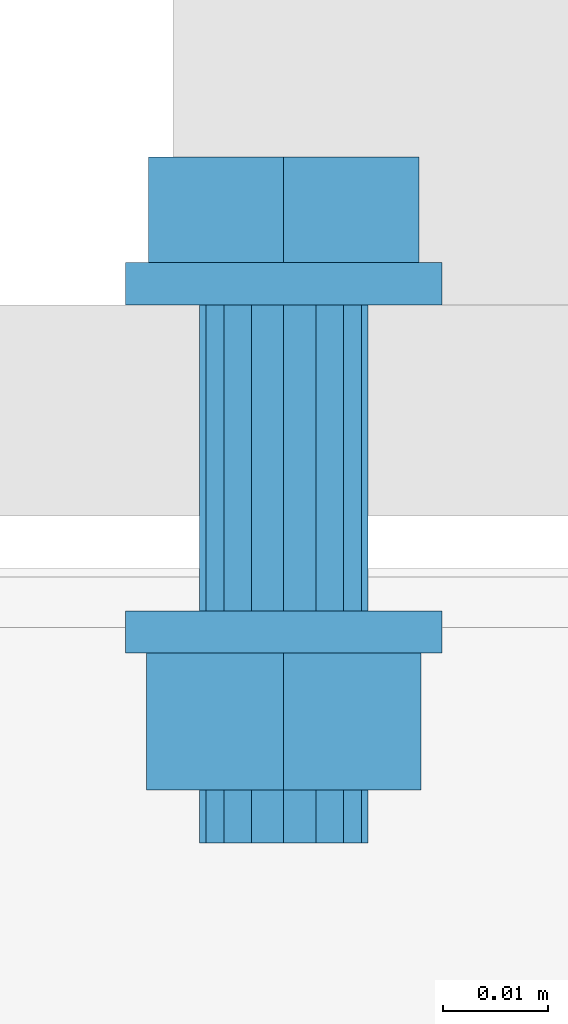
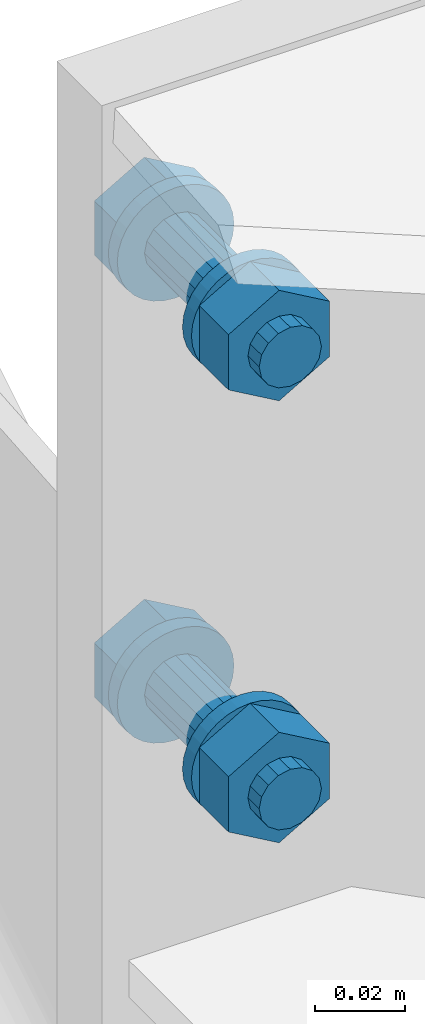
# One storey, part 6 of 21: 2 mechanical fasteners.
"""IFC4X3_ADD2 building model written with IfcOpenShell, lengths in millimetres."""

from ifc_helpers import new_model, entity, si_unit, converted_unit, derived_unit, direction, frame, origin, place, context, project, spatial, faceted_brep, element, save


model = new_model("IFC4X3_ADD2")

# Units and contexts
model_context = context("Model", 3, precision=0.01, world=origin(), true_north=direction((6.123233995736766e-17, 1.0)))
plan_context = context("Plan", 3, precision=0.01, world=origin(), true_north=direction((6.123233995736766e-17, 1.0)))
ifc_project = project(units=[si_unit("LENGTHUNIT", "METRE", prefix="MILLI"), converted_unit("PLANEANGLEUNIT", "DEGREE", entity("IfcPlaneAngleMeasure", 0.017453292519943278), si_unit("PLANEANGLEUNIT", "RADIAN"), dimensions=[0, 0, 0, 0, 0, 0, 0]), si_unit("AREAUNIT", "SQUARE_METRE"), si_unit("VOLUMEUNIT", "CUBIC_METRE"), derived_unit("THERMALTRANSMITTANCEUNIT", [(si_unit("MASSUNIT", "GRAM", prefix="KILO"), 1), (si_unit("THERMODYNAMICTEMPERATUREUNIT", "KELVIN"), -1), (si_unit("TIMEUNIT", "SECOND"), -3)]), derived_unit("USERDEFINED", [(si_unit("MASSUNIT", "GRAM", prefix="KILO"), 1), (si_unit("THERMODYNAMICTEMPERATUREUNIT", "KELVIN"), -1), (si_unit("TIMEUNIT", "SECOND"), -2)]), derived_unit("THERMALRESISTANCEUNIT", [(si_unit("MASSUNIT", "GRAM", prefix="KILO"), -1), (si_unit("TIMEUNIT", "SECOND"), 3), (si_unit("THERMODYNAMICTEMPERATUREUNIT", "KELVIN"), 1)]), si_unit("MASSUNIT", "GRAM", prefix="KILO"), derived_unit("MOMENTOFINERTIAUNIT", [(si_unit("LENGTHUNIT", "METRE"), 4)]), derived_unit("LINEARFORCEUNIT", [(si_unit("MASSUNIT", "GRAM", prefix="KILO"), 1), (si_unit("TIMEUNIT", "SECOND"), -2)]), derived_unit("WARPINGCONSTANTUNIT", [(si_unit("LENGTHUNIT", "METRE"), 6)]), si_unit("PRESSUREUNIT", "PASCAL"), derived_unit("MASSDENSITYUNIT", [(si_unit("MASSUNIT", "GRAM", prefix="KILO"), 1), (si_unit("LENGTHUNIT", "METRE"), -3)]), derived_unit("MODULUSOFELASTICITYUNIT", [(si_unit("MASSUNIT", "GRAM", prefix="KILO"), 1), (si_unit("TIMEUNIT", "SECOND"), -2), (si_unit("LENGTHUNIT", "METRE"), -1)]), derived_unit("THERMALEXPANSIONCOEFFICIENTUNIT", [(si_unit("THERMODYNAMICTEMPERATUREUNIT", "KELVIN"), -1)]), derived_unit("VAPORPERMEABILITYUNIT", [(si_unit("LENGTHUNIT", "METRE"), -1), (si_unit("TIMEUNIT", "SECOND"), 1)]), derived_unit("USERDEFINED", [(si_unit("MASSUNIT", "GRAM", prefix="KILO"), 1), (si_unit("TIMEUNIT", "SECOND"), -3), (si_unit("LENGTHUNIT", "METRE"), 3), (si_unit("ELECTRICCURRENTUNIT", "AMPERE"), -2)]), derived_unit("SPECIFICHEATCAPACITYUNIT", [(si_unit("THERMODYNAMICTEMPERATUREUNIT", "KELVIN"), -1), (si_unit("TIMEUNIT", "SECOND"), -2), (si_unit("LENGTHUNIT", "METRE"), 2)]), derived_unit("THERMALCONDUCTANCEUNIT", [(si_unit("MASSUNIT", "GRAM", prefix="KILO"), 1), (si_unit("THERMODYNAMICTEMPERATUREUNIT", "KELVIN"), -1), (si_unit("TIMEUNIT", "SECOND"), -3), (si_unit("LENGTHUNIT", "METRE"), 1)])], contexts=[model_context, plan_context])

# Site, building, storey
site_placement = place(None, origin())
site = spatial("IfcSite", under=ifc_project, at=site_placement, Name="Default", CompositionType="ELEMENT")
building_placement = place(site_placement, origin())
building = spatial("IfcBuilding", under=site, at=building_placement, Name="Complex structure", CompositionType="ELEMENT")
storey_placement = place(building_placement, frame((0.0, 0.0, 3000.0)))
storey = spatial("IfcBuildingStorey", under=building, at=storey_placement, Name="Level 01", CompositionType="ELEMENT", Elevation=3000.0)

# Mechanical fasteners
mechanical_fastener_1_placement = place(storey_placement, frame((0.0, 0.0, -3000.0)))
element("IfcMechanicalFastener", 1, at=mechanical_fastener_1_placement, inside=storey, ObjectType="Bolt#1", NominalDiameter=16.0, NominalLength=55.0, context=model_context, shape_type="Brep", body=[
    faceted_brep([(-13179.721550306, -1182.866703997, 3943.0), (-13179.721550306, -1186.866703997, 3943.0), (-13180.0097711, -1186.866703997, 3940.07364517), (-13180.0097711, -1182.866703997, 3940.07364517), (-13180.863357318, -1186.866703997, 3937.259748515), (-13180.863357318, -1182.866703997, 3937.259748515), (-13182.249506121, -1186.866703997, 3934.666446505), (-13182.249506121, -1182.866703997, 3934.666446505), (-13184.114948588, -1186.866703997, 3932.393398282), (-13184.114948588, -1182.866703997, 3932.393398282), (-13186.387996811, -1186.866703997, 3930.527955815), (-13186.387996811, -1182.866703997, 3930.527955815), (-13188.98129882, -1186.866703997, 3929.141807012), (-13188.98129882, -1182.866703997, 3929.141807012), (-13191.795195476, -1186.866703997, 3928.288220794), (-13191.795195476, -1182.866703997, 3928.288220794), (-13194.721550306, -1186.866703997, 3928.0), (-13194.721550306, -1182.866703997, 3928.0), (-13197.647905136, -1186.866703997, 3928.288220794), (-13197.647905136, -1182.866703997, 3928.288220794), (-13200.461801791, -1186.866703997, 3929.141807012), (-13200.461801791, -1182.866703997, 3929.141807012), (-13203.055103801, -1186.866703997, 3930.527955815), (-13203.055103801, -1182.866703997, 3930.527955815), (-13205.328152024, -1186.866703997, 3932.393398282), (-13205.328152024, -1182.866703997, 3932.393398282), (-13207.19359449, -1186.866703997, 3934.666446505), (-13207.19359449, -1182.866703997, 3934.666446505), (-13208.579743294, -1186.866703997, 3937.259748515), (-13208.579743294, -1182.866703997, 3937.259748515), (-13209.433329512, -1186.866703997, 3940.07364517), (-13209.433329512, -1182.866703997, 3940.07364517), (-13209.721550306, -1186.866703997, 3943.0), (-13209.721550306, -1182.866703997, 3943.0), (-13209.433329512, -1186.866703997, 3945.92635483), (-13209.433329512, -1182.866703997, 3945.92635483), (-13208.579743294, -1186.866703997, 3948.740251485), (-13208.579743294, -1182.866703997, 3948.740251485), (-13207.19359449, -1186.866703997, 3951.333553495), (-13207.19359449, -1182.866703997, 3951.333553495), (-13205.328152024, -1186.866703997, 3953.606601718), (-13205.328152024, -1182.866703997, 3953.606601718), (-13203.055103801, -1186.866703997, 3955.472044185), (-13203.055103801, -1182.866703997, 3955.472044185), (-13200.461801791, -1186.866703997, 3956.858192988), (-13200.461801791, -1182.866703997, 3956.858192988), (-13197.647905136, -1186.866703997, 3957.711779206), (-13197.647905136, -1182.866703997, 3957.711779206), (-13194.721550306, -1186.866703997, 3958.0), (-13194.721550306, -1182.866703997, 3958.0), (-13191.795195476, -1186.866703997, 3957.711779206), (-13191.795195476, -1182.866703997, 3957.711779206), (-13188.98129882, -1186.866703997, 3956.858192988), (-13188.98129882, -1182.866703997, 3956.858192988), (-13186.387996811, -1186.866703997, 3955.472044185), (-13186.387996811, -1182.866703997, 3955.472044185), (-13184.114948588, -1186.866703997, 3953.606601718), (-13184.114948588, -1182.866703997, 3953.606601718), (-13182.249506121, -1186.866703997, 3951.333553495), (-13182.249506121, -1182.866703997, 3951.333553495), (-13180.863357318, -1186.866703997, 3948.740251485), (-13180.863357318, -1182.866703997, 3948.740251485), (-13180.0097711, -1186.866703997, 3945.92635483), (-13180.0097711, -1182.866703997, 3945.92635483)], [[[0, 1, 2, 3]], [[3, 2, 4, 5]], [[5, 4, 6, 7]], [[7, 6, 8, 9]], [[9, 8, 10, 11]], [[11, 10, 12, 13]], [[13, 12, 14, 15]], [[15, 14, 16, 17]], [[17, 16, 18, 19]], [[19, 18, 20, 21]], [[21, 20, 22, 23]], [[23, 22, 24, 25]], [[25, 24, 26, 27]], [[27, 26, 28, 29]], [[29, 28, 30, 31]], [[31, 30, 32, 33]], [[33, 32, 34, 35]], [[35, 34, 36, 37]], [[37, 36, 38, 39]], [[39, 38, 40, 41]], [[41, 40, 42, 43]], [[43, 42, 44, 45]], [[45, 44, 46, 47]], [[47, 46, 48, 49]], [[49, 48, 50, 51]], [[51, 50, 52, 53]], [[53, 52, 54, 55]], [[55, 54, 56, 57]], [[57, 56, 58, 59]], [[59, 58, 60, 61]], [[61, 60, 62, 63]], [[63, 62, 1, 0]], [[0, 3, 5, 7, 9, 11, 13, 15, 17, 19, 21, 23, 25, 27, 29, 31, 33, 35, 37, 39, 41, 43, 45, 47, 49, 51, 53, 55, 57, 59, 61, 63]], [[1, 62, 60, 58, 56, 54, 52, 50, 48, 46, 44, 42, 40, 38, 36, 34, 32, 30, 28, 26, 24, 22, 20, 18, 16, 14, 12, 10, 8, 6, 4, 2]]]),
    faceted_brep([(-13207.521405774, -1182.866703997, 3935.61), (-13207.521405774, -1172.866703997, 3935.61), (-13194.721550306, -1172.866703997, 3928.22), (-13194.721550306, -1182.866703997, 3928.22), (-13181.921694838, -1172.866703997, 3935.61), (-13181.921694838, -1182.866703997, 3935.61), (-13181.921694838, -1172.866703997, 3950.39), (-13181.921694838, -1182.866703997, 3950.39), (-13194.721550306, -1172.866703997, 3957.78), (-13194.721550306, -1182.866703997, 3957.78), (-13207.521405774, -1172.866703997, 3950.39), (-13207.521405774, -1182.866703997, 3950.39)], [[[0, 1, 2, 3]], [[3, 2, 4, 5]], [[5, 4, 6, 7]], [[7, 6, 8, 9]], [[9, 8, 10, 11]], [[11, 10, 1, 0]], [[4, 2, 1, 10, 8, 6]], [[0, 3, 5, 7, 9, 11]]]),
    faceted_brep([(-13186.721550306, -1186.866703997, 3943.0), (-13186.721550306, -1215.866703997, 3943.0), (-13187.330514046, -1215.866703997, 3939.938532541), (-13187.330514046, -1186.866703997, 3939.938532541), (-13189.064696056, -1215.866703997, 3937.343145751), (-13189.064696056, -1186.866703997, 3937.343145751), (-13191.660082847, -1215.866703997, 3935.60896374), (-13191.660082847, -1186.866703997, 3935.60896374), (-13194.721550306, -1215.866703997, 3935.0), (-13194.721550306, -1186.866703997, 3935.0), (-13197.783017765, -1215.866703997, 3935.60896374), (-13197.783017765, -1186.866703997, 3935.60896374), (-13200.378404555, -1215.866703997, 3937.343145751), (-13200.378404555, -1186.866703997, 3937.343145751), (-13202.112586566, -1215.866703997, 3939.938532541), (-13202.112586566, -1186.866703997, 3939.938532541), (-13202.721550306, -1215.866703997, 3943.0), (-13202.721550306, -1186.866703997, 3943.0), (-13202.112586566, -1215.866703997, 3946.061467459), (-13202.112586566, -1186.866703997, 3946.061467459), (-13200.378404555, -1215.866703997, 3948.656854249), (-13200.378404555, -1186.866703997, 3948.656854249), (-13197.783017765, -1215.866703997, 3950.39103626), (-13197.783017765, -1186.866703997, 3950.39103626), (-13194.721550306, -1215.866703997, 3951.0), (-13194.721550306, -1186.866703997, 3951.0), (-13191.660082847, -1215.866703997, 3950.39103626), (-13191.660082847, -1186.866703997, 3950.39103626), (-13189.064696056, -1215.866703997, 3948.656854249), (-13189.064696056, -1186.866703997, 3948.656854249), (-13187.330514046, -1215.866703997, 3946.061467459), (-13187.330514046, -1186.866703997, 3946.061467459)], [[[0, 1, 2, 3]], [[3, 2, 4, 5]], [[5, 4, 6, 7]], [[7, 6, 8, 9]], [[9, 8, 10, 11]], [[11, 10, 12, 13]], [[13, 12, 14, 15]], [[15, 14, 16, 17]], [[17, 16, 18, 19]], [[19, 18, 20, 21]], [[21, 20, 22, 23]], [[23, 22, 24, 25]], [[25, 24, 26, 27]], [[27, 26, 28, 29]], [[29, 28, 30, 31]], [[31, 30, 1, 0]], [[0, 3, 5, 7, 9, 11, 13, 15, 17, 19, 21, 23, 25, 27, 29, 31]], [[1, 30, 28, 26, 24, 22, 20, 18, 16, 14, 12, 10, 8, 6, 4, 2]]]),
    faceted_brep([(-13179.721550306, -1215.866703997, 3943.0), (-13179.721550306, -1219.866703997, 3943.0), (-13180.0097711, -1219.866703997, 3940.07364517), (-13180.0097711, -1215.866703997, 3940.07364517), (-13180.863357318, -1219.866703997, 3937.259748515), (-13180.863357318, -1215.866703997, 3937.259748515), (-13182.249506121, -1219.866703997, 3934.666446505), (-13182.249506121, -1215.866703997, 3934.666446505), (-13184.114948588, -1219.866703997, 3932.393398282), (-13184.114948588, -1215.866703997, 3932.393398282), (-13186.387996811, -1219.866703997, 3930.527955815), (-13186.387996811, -1215.866703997, 3930.527955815), (-13188.98129882, -1219.866703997, 3929.141807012), (-13188.98129882, -1215.866703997, 3929.141807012), (-13191.795195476, -1219.866703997, 3928.288220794), (-13191.795195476, -1215.866703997, 3928.288220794), (-13194.721550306, -1219.866703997, 3928.0), (-13194.721550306, -1215.866703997, 3928.0), (-13197.647905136, -1219.866703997, 3928.288220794), (-13197.647905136, -1215.866703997, 3928.288220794), (-13200.461801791, -1219.866703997, 3929.141807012), (-13200.461801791, -1215.866703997, 3929.141807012), (-13203.055103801, -1219.866703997, 3930.527955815), (-13203.055103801, -1215.866703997, 3930.527955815), (-13205.328152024, -1219.866703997, 3932.393398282), (-13205.328152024, -1215.866703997, 3932.393398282), (-13207.19359449, -1219.866703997, 3934.666446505), (-13207.19359449, -1215.866703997, 3934.666446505), (-13208.579743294, -1219.866703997, 3937.259748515), (-13208.579743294, -1215.866703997, 3937.259748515), (-13209.433329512, -1219.866703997, 3940.07364517), (-13209.433329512, -1215.866703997, 3940.07364517), (-13209.721550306, -1219.866703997, 3943.0), (-13209.721550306, -1215.866703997, 3943.0), (-13209.433329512, -1219.866703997, 3945.92635483), (-13209.433329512, -1215.866703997, 3945.92635483), (-13208.579743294, -1219.866703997, 3948.740251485), (-13208.579743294, -1215.866703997, 3948.740251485), (-13207.19359449, -1219.866703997, 3951.333553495), (-13207.19359449, -1215.866703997, 3951.333553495), (-13205.328152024, -1219.866703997, 3953.606601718), (-13205.328152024, -1215.866703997, 3953.606601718), (-13203.055103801, -1219.866703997, 3955.472044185), (-13203.055103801, -1215.866703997, 3955.472044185), (-13200.461801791, -1219.866703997, 3956.858192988), (-13200.461801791, -1215.866703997, 3956.858192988), (-13197.647905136, -1219.866703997, 3957.711779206), (-13197.647905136, -1215.866703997, 3957.711779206), (-13194.721550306, -1219.866703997, 3958.0), (-13194.721550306, -1215.866703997, 3958.0), (-13191.795195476, -1219.866703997, 3957.711779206), (-13191.795195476, -1215.866703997, 3957.711779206), (-13188.98129882, -1219.866703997, 3956.858192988), (-13188.98129882, -1215.866703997, 3956.858192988), (-13186.387996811, -1219.866703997, 3955.472044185), (-13186.387996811, -1215.866703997, 3955.472044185), (-13184.114948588, -1219.866703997, 3953.606601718), (-13184.114948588, -1215.866703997, 3953.606601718), (-13182.249506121, -1219.866703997, 3951.333553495), (-13182.249506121, -1215.866703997, 3951.333553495), (-13180.863357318, -1219.866703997, 3948.740251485), (-13180.863357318, -1215.866703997, 3948.740251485), (-13180.0097711, -1219.866703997, 3945.92635483), (-13180.0097711, -1215.866703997, 3945.92635483)], [[[0, 1, 2, 3]], [[3, 2, 4, 5]], [[5, 4, 6, 7]], [[7, 6, 8, 9]], [[9, 8, 10, 11]], [[11, 10, 12, 13]], [[13, 12, 14, 15]], [[15, 14, 16, 17]], [[17, 16, 18, 19]], [[19, 18, 20, 21]], [[21, 20, 22, 23]], [[23, 22, 24, 25]], [[25, 24, 26, 27]], [[27, 26, 28, 29]], [[29, 28, 30, 31]], [[31, 30, 32, 33]], [[33, 32, 34, 35]], [[35, 34, 36, 37]], [[37, 36, 38, 39]], [[39, 38, 40, 41]], [[41, 40, 42, 43]], [[43, 42, 44, 45]], [[45, 44, 46, 47]], [[47, 46, 48, 49]], [[49, 48, 50, 51]], [[51, 50, 52, 53]], [[53, 52, 54, 55]], [[55, 54, 56, 57]], [[57, 56, 58, 59]], [[59, 58, 60, 61]], [[61, 60, 62, 63]], [[63, 62, 1, 0]], [[0, 3, 5, 7, 9, 11, 13, 15, 17, 19, 21, 23, 25, 27, 29, 31, 33, 35, 37, 39, 41, 43, 45, 47, 49, 51, 53, 55, 57, 59, 61, 63]], [[1, 62, 60, 58, 56, 54, 52, 50, 48, 46, 44, 42, 40, 38, 36, 34, 32, 30, 28, 26, 24, 22, 20, 18, 16, 14, 12, 10, 8, 6, 4, 2]]]),
    faceted_brep([(-13207.711931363, -1232.866703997, 3935.5), (-13207.711931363, -1219.866703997, 3935.5), (-13194.721550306, -1219.866703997, 3928.0), (-13194.721550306, -1232.866703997, 3928.0), (-13181.731169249, -1219.866703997, 3935.5), (-13181.731169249, -1232.866703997, 3935.5), (-13181.731169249, -1219.866703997, 3950.5), (-13181.731169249, -1232.866703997, 3950.5), (-13194.721550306, -1219.866703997, 3958.0), (-13194.721550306, -1232.866703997, 3958.0), (-13207.711931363, -1219.866703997, 3950.5), (-13207.711931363, -1232.866703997, 3950.5)], [[[0, 1, 2, 3]], [[3, 2, 4, 5]], [[5, 4, 6, 7]], [[7, 6, 8, 9]], [[9, 8, 10, 11]], [[11, 10, 1, 0]], [[4, 2, 1, 10, 8, 6]], [[0, 3, 5, 7, 9, 11]]]),
    faceted_brep([(-13186.721550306, -1232.866703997, 3943.0), (-13186.721550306, -1237.866703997, 3943.0), (-13187.330514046, -1237.866703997, 3939.938532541), (-13187.330514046, -1232.866703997, 3939.938532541), (-13189.064696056, -1237.866703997, 3937.343145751), (-13189.064696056, -1232.866703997, 3937.343145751), (-13191.660082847, -1237.866703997, 3935.60896374), (-13191.660082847, -1232.866703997, 3935.60896374), (-13194.721550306, -1237.866703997, 3935.0), (-13194.721550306, -1232.866703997, 3935.0), (-13197.783017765, -1237.866703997, 3935.60896374), (-13197.783017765, -1232.866703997, 3935.60896374), (-13200.378404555, -1237.866703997, 3937.343145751), (-13200.378404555, -1232.866703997, 3937.343145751), (-13202.112586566, -1237.866703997, 3939.938532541), (-13202.112586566, -1232.866703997, 3939.938532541), (-13202.721550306, -1237.866703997, 3943.0), (-13202.721550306, -1232.866703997, 3943.0), (-13202.112586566, -1237.866703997, 3946.061467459), (-13202.112586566, -1232.866703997, 3946.061467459), (-13200.378404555, -1237.866703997, 3948.656854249), (-13200.378404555, -1232.866703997, 3948.656854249), (-13197.783017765, -1237.866703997, 3950.39103626), (-13197.783017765, -1232.866703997, 3950.39103626), (-13194.721550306, -1237.866703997, 3951.0), (-13194.721550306, -1232.866703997, 3951.0), (-13191.660082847, -1237.866703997, 3950.39103626), (-13191.660082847, -1232.866703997, 3950.39103626), (-13189.064696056, -1237.866703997, 3948.656854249), (-13189.064696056, -1232.866703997, 3948.656854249), (-13187.330514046, -1237.866703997, 3946.061467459), (-13187.330514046, -1232.866703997, 3946.061467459)], [[[0, 1, 2, 3]], [[3, 2, 4, 5]], [[5, 4, 6, 7]], [[7, 6, 8, 9]], [[9, 8, 10, 11]], [[11, 10, 12, 13]], [[13, 12, 14, 15]], [[15, 14, 16, 17]], [[17, 16, 18, 19]], [[19, 18, 20, 21]], [[21, 20, 22, 23]], [[23, 22, 24, 25]], [[25, 24, 26, 27]], [[27, 26, 28, 29]], [[29, 28, 30, 31]], [[31, 30, 1, 0]], [[0, 3, 5, 7, 9, 11, 13, 15, 17, 19, 21, 23, 25, 27, 29, 31]], [[1, 30, 28, 26, 24, 22, 20, 18, 16, 14, 12, 10, 8, 6, 4, 2]]]),
])
mechanical_fastener_2_placement = place(storey_placement, frame((0.0, 0.0, -3000.0)))
element("IfcMechanicalFastener", 2, at=mechanical_fastener_2_placement, inside=storey, ObjectType="Bolt#2", NominalDiameter=16.0, NominalLength=55.0, context=model_context, shape_type="Brep", body=[
    faceted_brep([(-13179.721550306, -1182.866703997, 3823.0), (-13179.721550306, -1186.866703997, 3823.0), (-13180.0097711, -1186.866703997, 3820.07364517), (-13180.0097711, -1182.866703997, 3820.07364517), (-13180.863357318, -1186.866703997, 3817.259748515), (-13180.863357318, -1182.866703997, 3817.259748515), (-13182.249506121, -1186.866703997, 3814.666446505), (-13182.249506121, -1182.866703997, 3814.666446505), (-13184.114948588, -1186.866703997, 3812.393398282), (-13184.114948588, -1182.866703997, 3812.393398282), (-13186.387996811, -1186.866703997, 3810.527955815), (-13186.387996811, -1182.866703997, 3810.527955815), (-13188.98129882, -1186.866703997, 3809.141807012), (-13188.98129882, -1182.866703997, 3809.141807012), (-13191.795195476, -1186.866703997, 3808.288220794), (-13191.795195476, -1182.866703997, 3808.288220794), (-13194.721550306, -1186.866703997, 3808.0), (-13194.721550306, -1182.866703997, 3808.0), (-13197.647905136, -1186.866703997, 3808.288220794), (-13197.647905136, -1182.866703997, 3808.288220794), (-13200.461801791, -1186.866703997, 3809.141807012), (-13200.461801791, -1182.866703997, 3809.141807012), (-13203.055103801, -1186.866703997, 3810.527955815), (-13203.055103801, -1182.866703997, 3810.527955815), (-13205.328152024, -1186.866703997, 3812.393398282), (-13205.328152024, -1182.866703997, 3812.393398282), (-13207.19359449, -1186.866703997, 3814.666446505), (-13207.19359449, -1182.866703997, 3814.666446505), (-13208.579743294, -1186.866703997, 3817.259748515), (-13208.579743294, -1182.866703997, 3817.259748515), (-13209.433329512, -1186.866703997, 3820.07364517), (-13209.433329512, -1182.866703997, 3820.07364517), (-13209.721550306, -1186.866703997, 3823.0), (-13209.721550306, -1182.866703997, 3823.0), (-13209.433329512, -1186.866703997, 3825.92635483), (-13209.433329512, -1182.866703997, 3825.92635483), (-13208.579743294, -1186.866703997, 3828.740251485), (-13208.579743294, -1182.866703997, 3828.740251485), (-13207.19359449, -1186.866703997, 3831.333553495), (-13207.19359449, -1182.866703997, 3831.333553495), (-13205.328152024, -1186.866703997, 3833.606601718), (-13205.328152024, -1182.866703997, 3833.606601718), (-13203.055103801, -1186.866703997, 3835.472044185), (-13203.055103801, -1182.866703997, 3835.472044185), (-13200.461801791, -1186.866703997, 3836.858192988), (-13200.461801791, -1182.866703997, 3836.858192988), (-13197.647905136, -1186.866703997, 3837.711779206), (-13197.647905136, -1182.866703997, 3837.711779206), (-13194.721550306, -1186.866703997, 3838.0), (-13194.721550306, -1182.866703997, 3838.0), (-13191.795195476, -1186.866703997, 3837.711779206), (-13191.795195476, -1182.866703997, 3837.711779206), (-13188.98129882, -1186.866703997, 3836.858192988), (-13188.98129882, -1182.866703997, 3836.858192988), (-13186.387996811, -1186.866703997, 3835.472044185), (-13186.387996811, -1182.866703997, 3835.472044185), (-13184.114948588, -1186.866703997, 3833.606601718), (-13184.114948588, -1182.866703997, 3833.606601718), (-13182.249506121, -1186.866703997, 3831.333553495), (-13182.249506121, -1182.866703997, 3831.333553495), (-13180.863357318, -1186.866703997, 3828.740251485), (-13180.863357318, -1182.866703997, 3828.740251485), (-13180.0097711, -1186.866703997, 3825.92635483), (-13180.0097711, -1182.866703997, 3825.92635483)], [[[0, 1, 2, 3]], [[3, 2, 4, 5]], [[5, 4, 6, 7]], [[7, 6, 8, 9]], [[9, 8, 10, 11]], [[11, 10, 12, 13]], [[13, 12, 14, 15]], [[15, 14, 16, 17]], [[17, 16, 18, 19]], [[19, 18, 20, 21]], [[21, 20, 22, 23]], [[23, 22, 24, 25]], [[25, 24, 26, 27]], [[27, 26, 28, 29]], [[29, 28, 30, 31]], [[31, 30, 32, 33]], [[33, 32, 34, 35]], [[35, 34, 36, 37]], [[37, 36, 38, 39]], [[39, 38, 40, 41]], [[41, 40, 42, 43]], [[43, 42, 44, 45]], [[45, 44, 46, 47]], [[47, 46, 48, 49]], [[49, 48, 50, 51]], [[51, 50, 52, 53]], [[53, 52, 54, 55]], [[55, 54, 56, 57]], [[57, 56, 58, 59]], [[59, 58, 60, 61]], [[61, 60, 62, 63]], [[63, 62, 1, 0]], [[0, 3, 5, 7, 9, 11, 13, 15, 17, 19, 21, 23, 25, 27, 29, 31, 33, 35, 37, 39, 41, 43, 45, 47, 49, 51, 53, 55, 57, 59, 61, 63]], [[1, 62, 60, 58, 56, 54, 52, 50, 48, 46, 44, 42, 40, 38, 36, 34, 32, 30, 28, 26, 24, 22, 20, 18, 16, 14, 12, 10, 8, 6, 4, 2]]]),
    faceted_brep([(-13207.521405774, -1182.866703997, 3815.61), (-13207.521405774, -1172.866703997, 3815.61), (-13194.721550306, -1172.866703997, 3808.22), (-13194.721550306, -1182.866703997, 3808.22), (-13181.921694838, -1172.866703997, 3815.61), (-13181.921694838, -1182.866703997, 3815.61), (-13181.921694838, -1172.866703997, 3830.39), (-13181.921694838, -1182.866703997, 3830.39), (-13194.721550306, -1172.866703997, 3837.78), (-13194.721550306, -1182.866703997, 3837.78), (-13207.521405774, -1172.866703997, 3830.39), (-13207.521405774, -1182.866703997, 3830.39)], [[[0, 1, 2, 3]], [[3, 2, 4, 5]], [[5, 4, 6, 7]], [[7, 6, 8, 9]], [[9, 8, 10, 11]], [[11, 10, 1, 0]], [[4, 2, 1, 10, 8, 6]], [[0, 3, 5, 7, 9, 11]]]),
    faceted_brep([(-13186.721550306, -1186.866703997, 3823.0), (-13186.721550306, -1215.866703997, 3823.0), (-13187.330514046, -1215.866703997, 3819.938532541), (-13187.330514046, -1186.866703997, 3819.938532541), (-13189.064696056, -1215.866703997, 3817.343145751), (-13189.064696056, -1186.866703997, 3817.343145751), (-13191.660082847, -1215.866703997, 3815.60896374), (-13191.660082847, -1186.866703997, 3815.60896374), (-13194.721550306, -1215.866703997, 3815.0), (-13194.721550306, -1186.866703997, 3815.0), (-13197.783017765, -1215.866703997, 3815.60896374), (-13197.783017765, -1186.866703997, 3815.60896374), (-13200.378404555, -1215.866703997, 3817.343145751), (-13200.378404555, -1186.866703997, 3817.343145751), (-13202.112586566, -1215.866703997, 3819.938532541), (-13202.112586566, -1186.866703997, 3819.938532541), (-13202.721550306, -1215.866703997, 3823.0), (-13202.721550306, -1186.866703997, 3823.0), (-13202.112586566, -1215.866703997, 3826.061467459), (-13202.112586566, -1186.866703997, 3826.061467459), (-13200.378404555, -1215.866703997, 3828.656854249), (-13200.378404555, -1186.866703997, 3828.656854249), (-13197.783017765, -1215.866703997, 3830.39103626), (-13197.783017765, -1186.866703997, 3830.39103626), (-13194.721550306, -1215.866703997, 3831.0), (-13194.721550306, -1186.866703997, 3831.0), (-13191.660082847, -1215.866703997, 3830.39103626), (-13191.660082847, -1186.866703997, 3830.39103626), (-13189.064696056, -1215.866703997, 3828.656854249), (-13189.064696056, -1186.866703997, 3828.656854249), (-13187.330514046, -1215.866703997, 3826.061467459), (-13187.330514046, -1186.866703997, 3826.061467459)], [[[0, 1, 2, 3]], [[3, 2, 4, 5]], [[5, 4, 6, 7]], [[7, 6, 8, 9]], [[9, 8, 10, 11]], [[11, 10, 12, 13]], [[13, 12, 14, 15]], [[15, 14, 16, 17]], [[17, 16, 18, 19]], [[19, 18, 20, 21]], [[21, 20, 22, 23]], [[23, 22, 24, 25]], [[25, 24, 26, 27]], [[27, 26, 28, 29]], [[29, 28, 30, 31]], [[31, 30, 1, 0]], [[0, 3, 5, 7, 9, 11, 13, 15, 17, 19, 21, 23, 25, 27, 29, 31]], [[1, 30, 28, 26, 24, 22, 20, 18, 16, 14, 12, 10, 8, 6, 4, 2]]]),
    faceted_brep([(-13179.721550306, -1215.866703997, 3823.0), (-13179.721550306, -1219.866703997, 3823.0), (-13180.0097711, -1219.866703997, 3820.07364517), (-13180.0097711, -1215.866703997, 3820.07364517), (-13180.863357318, -1219.866703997, 3817.259748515), (-13180.863357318, -1215.866703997, 3817.259748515), (-13182.249506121, -1219.866703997, 3814.666446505), (-13182.249506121, -1215.866703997, 3814.666446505), (-13184.114948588, -1219.866703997, 3812.393398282), (-13184.114948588, -1215.866703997, 3812.393398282), (-13186.387996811, -1219.866703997, 3810.527955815), (-13186.387996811, -1215.866703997, 3810.527955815), (-13188.98129882, -1219.866703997, 3809.141807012), (-13188.98129882, -1215.866703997, 3809.141807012), (-13191.795195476, -1219.866703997, 3808.288220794), (-13191.795195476, -1215.866703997, 3808.288220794), (-13194.721550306, -1219.866703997, 3808.0), (-13194.721550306, -1215.866703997, 3808.0), (-13197.647905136, -1219.866703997, 3808.288220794), (-13197.647905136, -1215.866703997, 3808.288220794), (-13200.461801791, -1219.866703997, 3809.141807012), (-13200.461801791, -1215.866703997, 3809.141807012), (-13203.055103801, -1219.866703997, 3810.527955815), (-13203.055103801, -1215.866703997, 3810.527955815), (-13205.328152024, -1219.866703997, 3812.393398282), (-13205.328152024, -1215.866703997, 3812.393398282), (-13207.19359449, -1219.866703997, 3814.666446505), (-13207.19359449, -1215.866703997, 3814.666446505), (-13208.579743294, -1219.866703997, 3817.259748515), (-13208.579743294, -1215.866703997, 3817.259748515), (-13209.433329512, -1219.866703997, 3820.07364517), (-13209.433329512, -1215.866703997, 3820.07364517), (-13209.721550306, -1219.866703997, 3823.0), (-13209.721550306, -1215.866703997, 3823.0), (-13209.433329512, -1219.866703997, 3825.92635483), (-13209.433329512, -1215.866703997, 3825.92635483), (-13208.579743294, -1219.866703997, 3828.740251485), (-13208.579743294, -1215.866703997, 3828.740251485), (-13207.19359449, -1219.866703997, 3831.333553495), (-13207.19359449, -1215.866703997, 3831.333553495), (-13205.328152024, -1219.866703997, 3833.606601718), (-13205.328152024, -1215.866703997, 3833.606601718), (-13203.055103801, -1219.866703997, 3835.472044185), (-13203.055103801, -1215.866703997, 3835.472044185), (-13200.461801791, -1219.866703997, 3836.858192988), (-13200.461801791, -1215.866703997, 3836.858192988), (-13197.647905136, -1219.866703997, 3837.711779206), (-13197.647905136, -1215.866703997, 3837.711779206), (-13194.721550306, -1219.866703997, 3838.0), (-13194.721550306, -1215.866703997, 3838.0), (-13191.795195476, -1219.866703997, 3837.711779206), (-13191.795195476, -1215.866703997, 3837.711779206), (-13188.98129882, -1219.866703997, 3836.858192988), (-13188.98129882, -1215.866703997, 3836.858192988), (-13186.387996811, -1219.866703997, 3835.472044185), (-13186.387996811, -1215.866703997, 3835.472044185), (-13184.114948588, -1219.866703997, 3833.606601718), (-13184.114948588, -1215.866703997, 3833.606601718), (-13182.249506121, -1219.866703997, 3831.333553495), (-13182.249506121, -1215.866703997, 3831.333553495), (-13180.863357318, -1219.866703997, 3828.740251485), (-13180.863357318, -1215.866703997, 3828.740251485), (-13180.0097711, -1219.866703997, 3825.92635483), (-13180.0097711, -1215.866703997, 3825.92635483)], [[[0, 1, 2, 3]], [[3, 2, 4, 5]], [[5, 4, 6, 7]], [[7, 6, 8, 9]], [[9, 8, 10, 11]], [[11, 10, 12, 13]], [[13, 12, 14, 15]], [[15, 14, 16, 17]], [[17, 16, 18, 19]], [[19, 18, 20, 21]], [[21, 20, 22, 23]], [[23, 22, 24, 25]], [[25, 24, 26, 27]], [[27, 26, 28, 29]], [[29, 28, 30, 31]], [[31, 30, 32, 33]], [[33, 32, 34, 35]], [[35, 34, 36, 37]], [[37, 36, 38, 39]], [[39, 38, 40, 41]], [[41, 40, 42, 43]], [[43, 42, 44, 45]], [[45, 44, 46, 47]], [[47, 46, 48, 49]], [[49, 48, 50, 51]], [[51, 50, 52, 53]], [[53, 52, 54, 55]], [[55, 54, 56, 57]], [[57, 56, 58, 59]], [[59, 58, 60, 61]], [[61, 60, 62, 63]], [[63, 62, 1, 0]], [[0, 3, 5, 7, 9, 11, 13, 15, 17, 19, 21, 23, 25, 27, 29, 31, 33, 35, 37, 39, 41, 43, 45, 47, 49, 51, 53, 55, 57, 59, 61, 63]], [[1, 62, 60, 58, 56, 54, 52, 50, 48, 46, 44, 42, 40, 38, 36, 34, 32, 30, 28, 26, 24, 22, 20, 18, 16, 14, 12, 10, 8, 6, 4, 2]]]),
    faceted_brep([(-13207.711931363, -1232.866703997, 3815.5), (-13207.711931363, -1219.866703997, 3815.5), (-13194.721550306, -1219.866703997, 3808.0), (-13194.721550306, -1232.866703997, 3808.0), (-13181.731169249, -1219.866703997, 3815.5), (-13181.731169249, -1232.866703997, 3815.5), (-13181.731169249, -1219.866703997, 3830.5), (-13181.731169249, -1232.866703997, 3830.5), (-13194.721550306, -1219.866703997, 3838.0), (-13194.721550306, -1232.866703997, 3838.0), (-13207.711931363, -1219.866703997, 3830.5), (-13207.711931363, -1232.866703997, 3830.5)], [[[0, 1, 2, 3]], [[3, 2, 4, 5]], [[5, 4, 6, 7]], [[7, 6, 8, 9]], [[9, 8, 10, 11]], [[11, 10, 1, 0]], [[4, 2, 1, 10, 8, 6]], [[0, 3, 5, 7, 9, 11]]]),
    faceted_brep([(-13186.721550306, -1232.866703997, 3823.0), (-13186.721550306, -1237.866703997, 3823.0), (-13187.330514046, -1237.866703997, 3819.938532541), (-13187.330514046, -1232.866703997, 3819.938532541), (-13189.064696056, -1237.866703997, 3817.343145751), (-13189.064696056, -1232.866703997, 3817.343145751), (-13191.660082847, -1237.866703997, 3815.60896374), (-13191.660082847, -1232.866703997, 3815.60896374), (-13194.721550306, -1237.866703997, 3815.0), (-13194.721550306, -1232.866703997, 3815.0), (-13197.783017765, -1237.866703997, 3815.60896374), (-13197.783017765, -1232.866703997, 3815.60896374), (-13200.378404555, -1237.866703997, 3817.343145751), (-13200.378404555, -1232.866703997, 3817.343145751), (-13202.112586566, -1237.866703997, 3819.938532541), (-13202.112586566, -1232.866703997, 3819.938532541), (-13202.721550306, -1237.866703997, 3823.0), (-13202.721550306, -1232.866703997, 3823.0), (-13202.112586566, -1237.866703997, 3826.061467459), (-13202.112586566, -1232.866703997, 3826.061467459), (-13200.378404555, -1237.866703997, 3828.656854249), (-13200.378404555, -1232.866703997, 3828.656854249), (-13197.783017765, -1237.866703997, 3830.39103626), (-13197.783017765, -1232.866703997, 3830.39103626), (-13194.721550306, -1237.866703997, 3831.0), (-13194.721550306, -1232.866703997, 3831.0), (-13191.660082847, -1237.866703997, 3830.39103626), (-13191.660082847, -1232.866703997, 3830.39103626), (-13189.064696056, -1237.866703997, 3828.656854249), (-13189.064696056, -1232.866703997, 3828.656854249), (-13187.330514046, -1237.866703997, 3826.061467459), (-13187.330514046, -1232.866703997, 3826.061467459)], [[[0, 1, 2, 3]], [[3, 2, 4, 5]], [[5, 4, 6, 7]], [[7, 6, 8, 9]], [[9, 8, 10, 11]], [[11, 10, 12, 13]], [[13, 12, 14, 15]], [[15, 14, 16, 17]], [[17, 16, 18, 19]], [[19, 18, 20, 21]], [[21, 20, 22, 23]], [[23, 22, 24, 25]], [[25, 24, 26, 27]], [[27, 26, 28, 29]], [[29, 28, 30, 31]], [[31, 30, 1, 0]], [[0, 3, 5, 7, 9, 11, 13, 15, 17, 19, 21, 23, 25, 27, 29, 31]], [[1, 30, 28, 26, 24, 22, 20, 18, 16, 14, 12, 10, 8, 6, 4, 2]]]),
])

save(model, "model.ifc")
